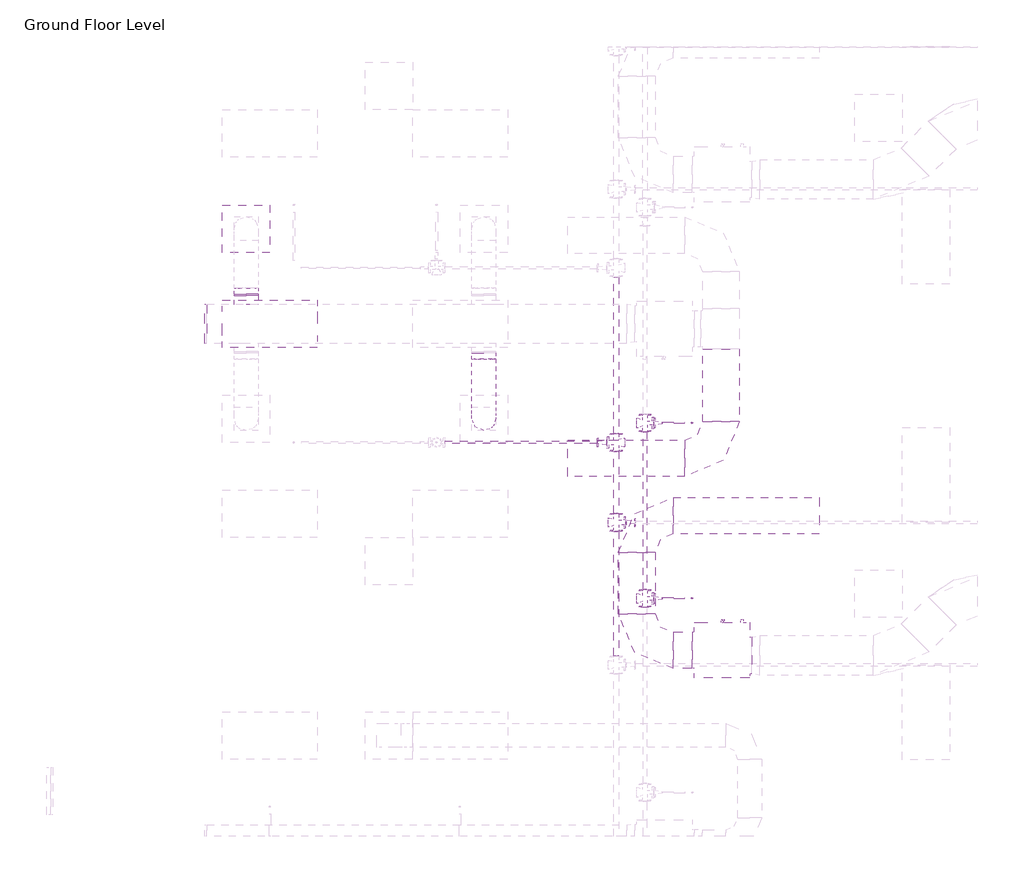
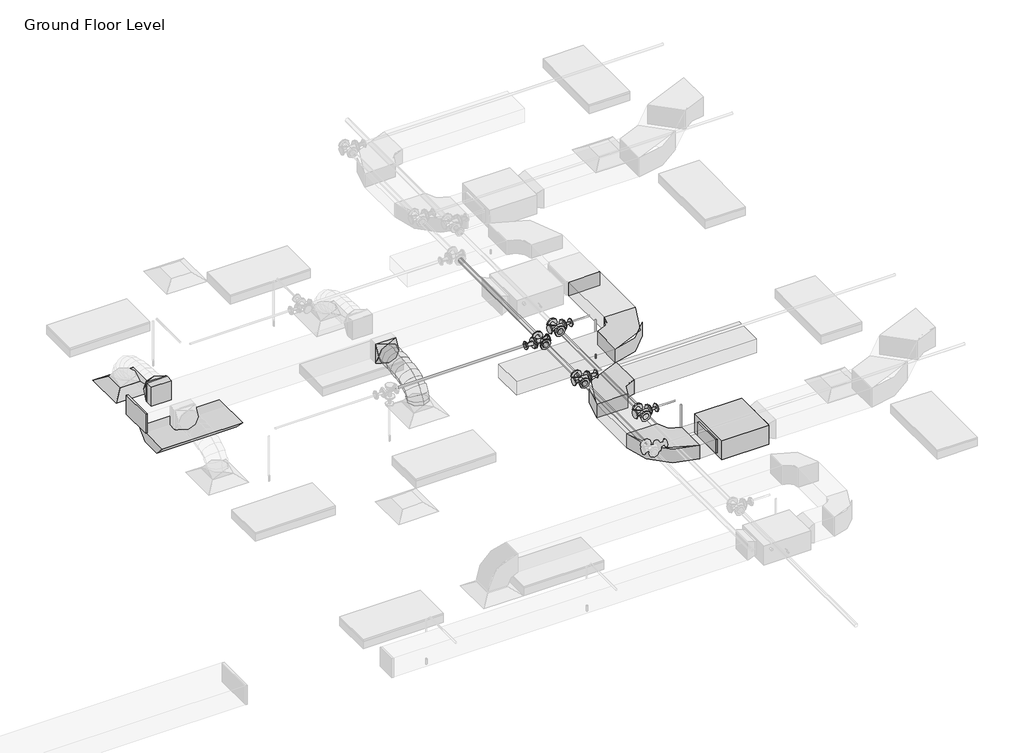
# One storey, part 55 of 66: 9 pipe segments, 8 duct fittings, 8 pipe fittings, 7 duct segments, 2 fire suppression terminals, 1 air terminal, 1 light fixture, 1 proxy.
"""IFC4 building model written with IfcOpenShell, lengths in millimetres."""

from ifc_helpers import new_model, si_unit, point, frame, frame_2d, origin, place, context, project, spatial, polyline, circle_curve, ellipse_curve, trimmed, segment, composite_curve, outline, extrude, transform, mapped, element, save
from ifc_brep_helpers import plane_surface, cylinder_surface, advanced_brep
from components import m_return_diffuser_600_x_600_face_300_x_300_connection_ff221211, fcu_daikin_iu_bad131e0, m_rectangular_elbow_radius_1_w_54c96895, m_rectangular_elbow_radius_1_w_0fa52825, m_rectangular_endcap_standard_72d4d00d, m_rectangular_takeoff_standard_2be5eba1, m_rectangular_transition_angle_45_degree_27e6000f, m_rectangular_to_round_transition_angle_45_degree_641efff0, m_sprinkler_pendent_15_mm_pendent_06fcbd8e, m_emergency_recessed_lighting_fixture_600x1200_277_5b10b25d, m_reducer_flanged_cs_class_150_standard_83138b42, m_reducer_flanged_cs_class_150_standard_a7631c35, m_reducer_flanged_cs_class_150_standard_5e9b2cee, m_tee_round_base_flanged_cs_class_150_standard_dd767e04, m_tee_round_base_flanged_cs_class_150_standard_ab36f383

model = new_model("IFC4")

# Units and contexts
model_context = context("Model", 3, world=origin())
ifc_project = project(units=[si_unit("LENGTHUNIT", "METRE", prefix="MILLI")], contexts=[model_context])

# Site, building, storey
site = spatial("IfcSite", under=ifc_project)
building = spatial("IfcBuilding", under=site)
storey = spatial("IfcBuildingStorey", under=building, Name="Ground Floor Level", Elevation=900.0)

# Air terminal
placement = place(None, origin())
m_return_diffuser_600_x_600_face_300_x_300_connection_shape = m_return_diffuser_600_x_600_face_300_x_300_connection_ff221211(model_context)
element("IfcAirTerminal", 1, ObjectType="M_Supply Diffuser : 600 x 600 Face 300 x 300 Connection", at=placement, inside=storey, context=model_context, shape_type="MappedRepresentation", body=[
    mapped(m_return_diffuser_600_x_600_face_300_x_300_connection_shape, transform((962.7672395, 5335.2153534, 3650.0), x_axis=(1.0, 0.0, 0.0), y_axis=(0.0, 1.0, 0.0), z_axis=(0.0, 0.0, 1.0))),
])

# Proxy
fcu_daikin_iu_shape = fcu_daikin_iu_bad131e0(model_context)
element("IfcBuildingElementProxy", 2, Name="FCU-DAIKIN IU : 4.5kW, 230V/50Hz/1Ph", ObjectType="FCU-DAIKIN IU : 4.5kW, 230V/50Hz/1Ph", at=placement, inside=storey, context=model_context, shape_type="MappedRepresentation", body=[
    mapped(fcu_daikin_iu_shape, transform((6968.8139492, 9.6779527, 3934.0932729), x_axis=(0.0, 1.0, 0.0), y_axis=(-1.0, 0.0, 0.0), z_axis=(0.0, 0.0, 1.0))),
])

# Duct fittings
m_rectangular_elbow_radius_1_w_shape = m_rectangular_elbow_radius_1_w_54c96895(model_context)
element("IfcDuctFitting", 3, ObjectType="M_Rectangular Elbow - Radius : 1 W", at=placement, inside=storey, context=model_context, shape_type="MappedRepresentation", body=[
    mapped(m_rectangular_elbow_radius_1_w_shape, transform((5893.4139492, 9.6779527, 4075.2932729), x_axis=(0.0, -1.0, 0.0), y_axis=(1.0, 0.0, 0.0), z_axis=(0.0, 0.0, 1.0))),
])
element("IfcDuctFitting", 4, ObjectType="M_Rectangular Elbow - Radius : 1 W", at=placement, inside=storey, context=model_context, shape_type="MappedRepresentation", body=[
    mapped(m_rectangular_elbow_radius_1_w_shape, transform((5893.4139492, 1709.6783949, 4075.2932729), x_axis=(-1.0, 0.0, 0.0), y_axis=(0.0, -1.0, 0.0), z_axis=(0.0, 0.0, 1.0))),
])
m_rectangular_elbow_radius_1_w_2_shape = m_rectangular_elbow_radius_1_w_0fa52825(model_context)
element("IfcDuctFitting", 5, ObjectType="M_Rectangular Elbow - Radius : 1 W", at=placement, inside=storey, context=model_context, shape_type="MappedRepresentation", body=[
    mapped(m_rectangular_elbow_radius_1_w_2_shape, transform((6958.8139492, 2435.5824167, 4075.2875), x_axis=(1.0, 0.0, 0.0), y_axis=(0.0, 1.0, 0.0), z_axis=(0.0, 0.0, 1.0))),
])
m_rectangular_endcap_standard_shape = m_rectangular_endcap_standard_72d4d00d(model_context)
element("IfcDuctFitting", 6, ObjectType="M_Rectangular Endcap : Standard", at=placement, inside=storey, context=model_context, shape_type="MappedRepresentation", body=[
    mapped(m_rectangular_endcap_standard_shape, transform((468.0139492, 4135.0199167, 4099.9875), x_axis=(-0.9999999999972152, 0.0, -2.3600398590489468e-06), y_axis=(0.0, -1.0000000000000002, 0.0), z_axis=(-2.3600398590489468e-06, 0.0, 0.9999999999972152))),
])
m_rectangular_takeoff_standard_shape = m_rectangular_takeoff_standard_2be5eba1(model_context)
element("IfcDuctFitting", 7, ObjectType="M_Rectangular Takeoff : Standard", at=placement, inside=storey, context=model_context, shape_type="MappedRepresentation", body=[
    mapped(m_rectangular_takeoff_standard_shape, transform((962.7672395, 4385.0199167, 4099.9886676), x_axis=(0.0, 1.0, 0.0), y_axis=(1.0, 0.0, 0.0), z_axis=(0.0, 0.0, -1.0))),
])
m_rectangular_transition_angle_45_degree_shape = m_rectangular_transition_angle_45_degree_27e6000f(model_context)
element("IfcDuctFitting", 8, ObjectType="M_Rectangular Transition - Angle : 45 Degree", at=placement, inside=storey, context=model_context, shape_type="MappedRepresentation", body=[
    mapped(m_rectangular_transition_angle_45_degree_shape, transform((6958.8139492, 3815.5824167, 4075.2875), x_axis=(0.0, -1.0, 0.0), y_axis=(1.0, 0.0, 0.0), z_axis=(0.0, 0.0, 1.0))),
])
m_rectangular_to_round_transition_angle_45_degree_shape = m_rectangular_to_round_transition_angle_45_degree_641efff0(model_context)
element("IfcDuctFitting", 9, ObjectType="M_Rectangular to Round Transition - Angle : 45 Degree", at=placement, inside=storey, context=model_context, shape_type="MappedRepresentation", body=[
    mapped(m_rectangular_to_round_transition_angle_45_degree_shape, transform((962.7672395, 4507.8680897, 4099.9886676), x_axis=(0.0, 1.0, 0.0), y_axis=(-1.0, 0.0, 0.0), z_axis=(0.0, 0.0, 1.0))),
])
element("IfcDuctFitting", 10, ObjectType="M_Rectangular to Round Transition - Angle : 45 Degree", at=placement, inside=storey, context=model_context, shape_type="MappedRepresentation", body=[
    mapped(m_rectangular_to_round_transition_angle_45_degree_shape, transform((3962.7672395, 3762.5555369, 4099.9957478), x_axis=(0.0, -1.0, 0.0), y_axis=(1.0, 0.0, 0.0), z_axis=(0.0, 0.0, 1.0))),
])

# Duct segments
element("IfcDuctSegment", 11, ObjectType="Flex - Round", at=placement, inside=storey, context=model_context, shape_type="AdvancedBrep", body=[
    advanced_brep(
    [(4112.7672395, 2935.2153534, 3826.6), (3962.7672395, 2785.2153534, 3826.6), (3812.7672395, 2935.2153534, 3826.6), (3962.7672395, 3085.2153534, 3826.6), (4112.7672395, 2935.2153534, 3857.9378899), (3962.7672395, 2785.2153534, 3883.5813304), (3812.7672395, 2935.2153534, 3857.9378899), (3962.7672395, 3085.2153534, 3832.2944495), (4112.7672395, 2952.2314038, 3906.2506504), (3962.7672395, 2818.4936927, 3978.0667363), (3812.7672395, 2952.2314038, 3906.2506504), (3962.7672395, 3085.969115, 3834.4345644), (4112.7672395, 2999.4156052, 3968.7111185), (3962.7672395, 2895.2104338, 4079.6211427), (3812.7672395, 2999.4156052, 3968.7111185), (3962.7672395, 3103.6207766, 3857.8010943), (4112.7672395, 3070.9720324, 4016.0693384), (3962.7672395, 3002.0391237, 4150.3236188), (3812.7672395, 3070.9720324, 4016.0693384), (3962.7672395, 3139.9049411, 3881.8150579), (4112.7672395, 3161.1047605, 4050.413244), (3962.7672395, 3117.545251, 4194.3357287), (3812.7672395, 3161.1047605, 4050.413244), (3962.7672395, 3204.66427, 3906.4907592), (4112.7672395, 3264.0178643, 4073.8307693), (3962.7672395, 3237.4581287, 4221.6214946), (3812.7672395, 3264.0178643, 4073.8307693), (3962.7672395, 3290.5775999, 3926.0400441), (4112.7672395, 3373.9154189, 4088.4098484), (3962.7672395, 3358.7655495, 4237.7142137), (3812.7672395, 3373.9154189, 4088.4098484), (3962.7672395, 3389.0652883, 3939.1054831), (4112.7672395, 3485.0014992, 4096.2384151), (3962.7672395, 3477.4969747, 4246.0815706), (3812.7672395, 3485.0014992, 4096.2384151), (3962.7672395, 3492.5060238, 3946.3952596), (4112.7672395, 3591.4801802, 4099.4044036), (3962.7672395, 3588.7891594, 4249.3906816), (3812.7672395, 3591.4801802, 4099.4044036), (3962.7672395, 3594.1712011, 3949.4181256), (4112.7672395, 3687.5555369, 4099.9957478), (3962.7672395, 3688.47877, 3949.998589), (3812.7672395, 3687.5555369, 4099.9957478), (3962.7672395, 3686.6323039, 4249.9929065)],
    [
        (0, 1, circle_curve(frame((3962.7672395, 2935.2153534, 3826.6), z_axis=(0.0, 0.0, -1.0), x_axis=(1.0, 0.0, 0.0)), 150.0)),
        (1, 2, circle_curve(frame((3962.7672395, 2935.2153534, 3826.6), z_axis=(0.0, 0.0, -1.0), x_axis=(1.0, 0.0, 0.0)), 150.0)),
        (2, 3, circle_curve(frame((3962.7672395, 2935.2153534, 3826.6), z_axis=(0.0, 0.0, -1.0), x_axis=(1.0, 0.0, 0.0)), 150.0)),
        (3, 0, circle_curve(frame((3962.7672395, 2935.2153534, 3826.6), z_axis=(0.0, 0.0, -1.0), x_axis=(1.0, 0.0, 0.0)), 150.0)),
        (0, 4),
        (4, 5, ellipse_curve(frame((3962.7672395, 2935.2153534, 3857.9378899), z_axis=(0.0, -0.1685115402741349, -0.9856996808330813), x_axis=(0.0, 0.9856996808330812, -0.1685115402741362)), 152.1761678, 150.0)),
        (5, 1),
        (5, 6, ellipse_curve(frame((3962.7672395, 2935.2153534, 3857.9378899), z_axis=(0.0, -0.1685115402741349, -0.9856996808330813), x_axis=(0.0, 0.9856996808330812, -0.1685115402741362)), 152.1761678, 150.0)),
        (6, 2),
        (6, 7, ellipse_curve(frame((3962.7672395, 2935.2153534, 3857.9378899), z_axis=(0.0, -0.1685115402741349, -0.9856996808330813), x_axis=(0.0, 0.9856996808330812, -0.1685115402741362)), 152.1761678, 150.0)),
        (7, 3),
        (7, 4, ellipse_curve(frame((3962.7672395, 2935.2153534, 3857.9378899), z_axis=(0.0, -0.1685115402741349, -0.9856996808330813), x_axis=(0.0, 0.9856996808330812, -0.1685115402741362)), 152.1761678, 150.0)),
        (4, 8),
        (8, 9, ellipse_curve(frame((3962.7672395, 2952.2314038, 3906.2506504), z_axis=(0.0, -0.47309586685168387, -0.8810109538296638), x_axis=(0.0, 0.8810109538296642, -0.4730958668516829)), 151.8002819, 150.0)),
        (9, 5),
        (9, 10, ellipse_curve(frame((3962.7672395, 2952.2314038, 3906.2506504), z_axis=(0.0, -0.47309586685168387, -0.8810109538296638), x_axis=(0.0, 0.8810109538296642, -0.4730958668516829)), 151.8002819, 150.0)),
        (10, 6),
        (10, 11, ellipse_curve(frame((3962.7672395, 2952.2314038, 3906.2506504), z_axis=(0.0, -0.47309586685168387, -0.8810109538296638), x_axis=(0.0, 0.8810109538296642, -0.4730958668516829)), 151.8002819, 150.0)),
        (11, 7),
        (11, 8, ellipse_curve(frame((3962.7672395, 2952.2314038, 3906.2506504), z_axis=(0.0, -0.47309586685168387, -0.8810109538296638), x_axis=(0.0, 0.8810109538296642, -0.4730958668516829)), 151.8002819, 150.0)),
        (8, 12),
        (12, 13, ellipse_curve(frame((3962.7672395, 2999.4156052, 3968.7111185), z_axis=(0.0, -0.7287924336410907, -0.68473468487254), x_axis=(0.0, 0.6847346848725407, -0.7287924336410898)), 152.1832817, 150.0)),
        (13, 9),
        (13, 14, ellipse_curve(frame((3962.7672395, 2999.4156052, 3968.7111185), z_axis=(0.0, -0.7287924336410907, -0.68473468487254), x_axis=(0.0, 0.6847346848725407, -0.7287924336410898)), 152.1832817, 150.0)),
        (14, 10),
        (14, 15, ellipse_curve(frame((3962.7672395, 2999.4156052, 3968.7111185), z_axis=(0.0, -0.7287924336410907, -0.68473468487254), x_axis=(0.0, 0.6847346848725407, -0.7287924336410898)), 152.1832817, 150.0)),
        (15, 11),
        (15, 12, ellipse_curve(frame((3962.7672395, 2999.4156052, 3968.7111185), z_axis=(0.0, -0.7287924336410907, -0.68473468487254), x_axis=(0.0, 0.6847346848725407, -0.7287924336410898)), 152.1832817, 150.0)),
        (12, 16),
        (16, 17, ellipse_curve(frame((3962.7672395, 3070.9720324, 4016.0693384), z_axis=(0.0, -0.8895898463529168, -0.4567602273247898), x_axis=(0.0, 0.45676022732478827, -0.8895898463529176)), 150.9170558, 150.0)),
        (17, 13),
        (17, 18, ellipse_curve(frame((3962.7672395, 3070.9720324, 4016.0693384), z_axis=(0.0, -0.8895898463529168, -0.4567602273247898), x_axis=(0.0, 0.45676022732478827, -0.8895898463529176)), 150.9170558, 150.0)),
        (18, 14),
        (18, 19, ellipse_curve(frame((3962.7672395, 3070.9720324, 4016.0693384), z_axis=(0.0, -0.8895898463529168, -0.4567602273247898), x_axis=(0.0, 0.45676022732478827, -0.8895898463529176)), 150.9170558, 150.0)),
        (19, 15),
        (19, 16, ellipse_curve(frame((3962.7672395, 3070.9720324, 4016.0693384), z_axis=(0.0, -0.8895898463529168, -0.4567602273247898), x_axis=(0.0, 0.45676022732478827, -0.8895898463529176)), 150.9170558, 150.0)),
        (16, 20),
        (20, 21, ellipse_curve(frame((3962.7672395, 3161.1047605, 4050.413244), z_axis=(0.0, -0.9571228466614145, -0.28968233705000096), x_axis=(0.0, 0.2896823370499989, -0.9571228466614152)), 150.3699188, 150.0)),
        (21, 17),
        (21, 22, ellipse_curve(frame((3962.7672395, 3161.1047605, 4050.413244), z_axis=(0.0, -0.9571228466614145, -0.28968233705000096), x_axis=(0.0, 0.2896823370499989, -0.9571228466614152)), 150.3699188, 150.0)),
        (22, 18),
        (22, 23, ellipse_curve(frame((3962.7672395, 3161.1047605, 4050.413244), z_axis=(0.0, -0.9571228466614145, -0.28968233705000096), x_axis=(0.0, 0.2896823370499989, -0.9571228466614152)), 150.3699188, 150.0)),
        (23, 19),
        (23, 20, ellipse_curve(frame((3962.7672395, 3161.1047605, 4050.413244), z_axis=(0.0, -0.9571228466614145, -0.28968233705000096), x_axis=(0.0, 0.2896823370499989, -0.9571228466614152)), 150.3699188, 150.0)),
        (20, 24),
        (24, 25, ellipse_curve(frame((3962.7672395, 3264.0178643, 4073.8307693), z_axis=(0.0, -0.9842327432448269, -0.17687822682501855), x_axis=(0.0, 0.17687822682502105, -0.9842327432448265)), 150.1583099, 150.0)),
        (25, 21),
        (25, 26, ellipse_curve(frame((3962.7672395, 3264.0178643, 4073.8307693), z_axis=(0.0, -0.9842327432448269, -0.17687822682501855), x_axis=(0.0, 0.17687822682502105, -0.9842327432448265)), 150.1583099, 150.0)),
        (26, 22),
        (26, 27, ellipse_curve(frame((3962.7672395, 3264.0178643, 4073.8307693), z_axis=(0.0, -0.9842327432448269, -0.17687822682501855), x_axis=(0.0, 0.17687822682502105, -0.9842327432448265)), 150.1583099, 150.0)),
        (27, 23),
        (27, 24, ellipse_curve(frame((3962.7672395, 3264.0178643, 4073.8307693), z_axis=(0.0, -0.9842327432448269, -0.17687822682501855), x_axis=(0.0, 0.17687822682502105, -0.9842327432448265)), 150.1583099, 150.0)),
        (24, 28),
        (28, 29, ellipse_curve(frame((3962.7672395, 3373.9154189, 4088.4098484), z_axis=(0.0, -0.9948913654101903, -0.10095133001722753), x_axis=(0.0, 0.10095133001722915, -0.9948913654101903)), 150.0710233, 150.0)),
        (29, 25),
        (29, 30, ellipse_curve(frame((3962.7672395, 3373.9154189, 4088.4098484), z_axis=(0.0, -0.9948913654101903, -0.10095133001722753), x_axis=(0.0, 0.10095133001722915, -0.9948913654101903)), 150.0710233, 150.0)),
        (30, 26),
        (30, 31, ellipse_curve(frame((3962.7672395, 3373.9154189, 4088.4098484), z_axis=(0.0, -0.9948913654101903, -0.10095133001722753), x_axis=(0.0, 0.10095133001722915, -0.9948913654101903)), 150.0710233, 150.0)),
        (31, 27),
        (31, 28, ellipse_curve(frame((3962.7672395, 3373.9154189, 4088.4098484), z_axis=(0.0, -0.9948913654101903, -0.10095133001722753), x_axis=(0.0, 0.10095133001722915, -0.9948913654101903)), 150.0710233, 150.0)),
        (28, 32),
        (32, 33, ellipse_curve(frame((3962.7672395, 3485.0014992, 4096.2384151), z_axis=(0.0, -0.9987482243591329, -0.05001983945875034), x_axis=(0.0, 0.05001983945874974, -0.9987482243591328)), 150.0309606, 150.0)),
        (33, 29),
        (33, 34, ellipse_curve(frame((3962.7672395, 3485.0014992, 4096.2384151), z_axis=(0.0, -0.9987482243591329, -0.05001983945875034), x_axis=(0.0, 0.05001983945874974, -0.9987482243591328)), 150.0309606, 150.0)),
        (34, 30),
        (34, 35, ellipse_curve(frame((3962.7672395, 3485.0014992, 4096.2384151), z_axis=(0.0, -0.9987482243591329, -0.05001983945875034), x_axis=(0.0, 0.05001983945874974, -0.9987482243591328)), 150.0309606, 150.0)),
        (35, 31),
        (35, 32, ellipse_curve(frame((3962.7672395, 3485.0014992, 4096.2384151), z_axis=(0.0, -0.9987482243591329, -0.05001983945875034), x_axis=(0.0, 0.05001983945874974, -0.9987482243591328)), 150.0309606, 150.0)),
        (32, 36),
        (36, 37, ellipse_curve(frame((3962.7672395, 3591.4801802, 4099.4044036), z_axis=(0.0, -0.9998390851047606, -0.017938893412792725), x_axis=(0.0, 0.017938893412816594, -0.99983908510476)), 150.0104169, 150.0)),
        (37, 33),
        (37, 38, ellipse_curve(frame((3962.7672395, 3591.4801802, 4099.4044036), z_axis=(0.0, -0.9998390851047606, -0.017938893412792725), x_axis=(0.0, 0.017938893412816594, -0.99983908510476)), 150.0104169, 150.0)),
        (38, 34),
        (38, 39, ellipse_curve(frame((3962.7672395, 3591.4801802, 4099.4044036), z_axis=(0.0, -0.9998390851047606, -0.017938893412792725), x_axis=(0.0, 0.017938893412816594, -0.99983908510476)), 150.0104169, 150.0)),
        (39, 35),
        (39, 36, ellipse_curve(frame((3962.7672395, 3591.4801802, 4099.4044036), z_axis=(0.0, -0.9998390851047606, -0.017938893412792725), x_axis=(0.0, 0.017938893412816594, -0.99983908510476)), 150.0104169, 150.0)),
        (40, 41, circle_curve(frame((3962.7672395, 3687.5555369, 4099.9957478), z_axis=(0.0, 0.9999810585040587, 0.006154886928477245), x_axis=(1.0, 0.0, 0.0)), 150.0)),
        (41, 42, circle_curve(frame((3962.7672395, 3687.5555369, 4099.9957478), z_axis=(0.0, 0.9999810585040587, 0.006154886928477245), x_axis=(1.0, 0.0, 0.0)), 150.0)),
        (42, 43, circle_curve(frame((3962.7672395, 3687.5555369, 4099.9957478), z_axis=(0.0, 0.9999810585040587, 0.006154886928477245), x_axis=(1.0, 0.0, 0.0)), 150.0)),
        (43, 40, circle_curve(frame((3962.7672395, 3687.5555369, 4099.9957478), z_axis=(0.0, 0.9999810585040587, 0.006154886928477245), x_axis=(1.0, 0.0, 0.0)), 150.0)),
        (36, 40),
        (43, 37),
        (42, 38),
        (41, 39),
    ],
    [
        plane_surface(frame((3962.7672395, 2785.2153534, 3826.6), z_axis=(0.0, 0.0, -1.0), x_axis=(1.0, 0.0, 0.0))),
        cylinder_surface(frame((3962.7672395, 2935.2153534, 3826.6), z_axis=(0.0, 0.0, -1.0), x_axis=(1.0, 0.0, 0.0)), 150.0),
        cylinder_surface(frame((3962.7672395, 2935.2153534, 3857.9378899), z_axis=(0.0, -0.33220354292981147, -0.9432077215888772), x_axis=(1.0, 0.0, 0.0)), 150.0),
        cylinder_surface(frame((3962.7672395, 2952.2314038, 3906.2506504), z_axis=(0.0, -0.6027667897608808, -0.7979174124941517), x_axis=(1.0, 0.0, 0.0)), 150.0),
        cylinder_surface(frame((3962.7672395, 2999.4156052, 3968.7111185), z_axis=(0.0, -0.833906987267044, -0.5519050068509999), x_axis=(1.0, 0.0, 0.0)), 150.0),
        cylinder_surface(frame((3962.7672395, 3070.9720324, 4016.0693384), z_axis=(0.0, -0.9344614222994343, -0.35606439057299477), x_axis=(1.0, 0.0, 0.0)), 150.0),
        cylinder_surface(frame((3962.7672395, 3161.1047605, 4050.413244), z_axis=(0.0, -0.9750751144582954, -0.22187501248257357), x_axis=(1.0, 0.0, 0.0)), 150.0),
        cylinder_surface(frame((3962.7672395, 3264.0178643, 4073.8307693), z_axis=(0.0, -0.9913150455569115, -0.1315084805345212), x_axis=(1.0, 0.0, 0.0)), 150.0),
        cylinder_surface(frame((3962.7672395, 3373.9154189, 4088.4098484), z_axis=(0.0, -0.997525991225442, -0.07029862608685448), x_axis=(1.0, 0.0, 0.0)), 150.0),
        cylinder_surface(frame((3962.7672395, 3485.0014992, 4096.2384151), z_axis=(0.0, -0.9995582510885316, -0.029720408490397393), x_axis=(1.0, 0.0, 0.0)), 150.0),
        plane_surface(frame((3962.7672395, 3686.6323039, 4249.9929065), z_axis=(0.0, 0.9999810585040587, 0.006154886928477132), x_axis=(1.0, 0.0, 0.0))),
        cylinder_surface(frame((3962.7672395, 3591.4801802, 4099.4044036), z_axis=(0.0, -0.9999810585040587, -0.006154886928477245), x_axis=(1.0, 0.0, 0.0)), 150.0),
    ],
    [
        (0, [[1, 2, 3, 4]]),
        (1, [[-1, 5, 6, 7]]),
        (1, [[-2, -7, 8, 9]]),
        (1, [[-3, -9, 10, 11]]),
        (1, [[-4, -11, 12, -5]]),
        (2, [[-6, 13, 14, 15]]),
        (2, [[-8, -15, 16, 17]]),
        (2, [[-10, -17, 18, 19]]),
        (2, [[-12, -19, 20, -13]]),
        (3, [[-14, 21, 22, 23]]),
        (3, [[-16, -23, 24, 25]]),
        (3, [[-18, -25, 26, 27]]),
        (3, [[-20, -27, 28, -21]]),
        (4, [[-22, 29, 30, 31]]),
        (4, [[-24, -31, 32, 33]]),
        (4, [[-26, -33, 34, 35]]),
        (4, [[-28, -35, 36, -29]]),
        (5, [[-30, 37, 38, 39]]),
        (5, [[-32, -39, 40, 41]]),
        (5, [[-34, -41, 42, 43]]),
        (5, [[-36, -43, 44, -37]]),
        (6, [[-38, 45, 46, 47]]),
        (6, [[-40, -47, 48, 49]]),
        (6, [[-42, -49, 50, 51]]),
        (6, [[-44, -51, 52, -45]]),
        (7, [[-46, 53, 54, 55]]),
        (7, [[-48, -55, 56, 57]]),
        (7, [[-50, -57, 58, 59]]),
        (7, [[-52, -59, 60, -53]]),
        (8, [[-54, 61, 62, 63]]),
        (8, [[-56, -63, 64, 65]]),
        (8, [[-58, -65, 66, 67]]),
        (8, [[-60, -67, 68, -61]]),
        (9, [[-62, 69, 70, 71]]),
        (9, [[-64, -71, 72, 73]]),
        (9, [[-66, -73, 74, 75]]),
        (9, [[-68, -75, 76, -69]]),
        (10, [[77, 78, 79, 80]]),
        (11, [[-70, 81, -80, 82]]),
        (11, [[-72, -82, -79, 83]]),
        (11, [[-74, -83, -78, 84]]),
        (11, [[-76, -84, -77, -81]]),
    ],
),
])
element("IfcDuctSegment", 12, ObjectType="Radius Elbows / Taps", at=placement, inside=storey, context=model_context, shape_type="SweptSolid", body=[
    extrude(outline(polyline([(6593.4139492, 240.6154527), (6593.4139492, -221.2595473), (6355.2889492, -221.2595473), (6355.2889492, 240.6154527), (6593.4139492, 240.6154527)])), frame((0.0, 0.0, 3968.1432729), z_axis=(0.0, 0.0, 1.0), x_axis=(1.0, 0.0, 0.0)), (0.0, 0.0, 1.0), 214.3),
])
element("IfcDuctSegment", 13, ObjectType="Radius Elbows / Taps", at=placement, inside=storey, context=model_context, shape_type="SweptSolid", body=[
    extrude(outline(polyline([(6124.3514492, 471.5529527), (5662.4764492, 471.5529527), (5662.4764492, 1247.8033949), (6124.3514492, 1247.8033949), (6124.3514492, 471.5529527)])), frame((0.0, 0.0, 3968.1432729), z_axis=(0.0, 0.0, 1.0), x_axis=(1.0, 0.0, 0.0)), (0.0, 0.0, 1.0), 214.3),
])
element("IfcDuctSegment", 14, ObjectType="Radius Elbows / Taps", at=placement, inside=storey, context=model_context, shape_type="SweptSolid", body=[
    extrude(outline(polyline([(6355.2889492, 1478.7408949), (6355.2889492, 1940.6158949), (8193.4139492, 1940.6158949), (8193.4139492, 1478.7408949), (6355.2889492, 1478.7408949)])), frame((0.0, 0.0, 3968.1432729), z_axis=(0.0, 0.0, 1.0), x_axis=(1.0, 0.0, 0.0)), (0.0, 0.0, 1.0), 214.3),
])
element("IfcDuctSegment", 15, ObjectType="Radius Elbows / Taps", at=placement, inside=storey, context=model_context, shape_type="SweptSolid", body=[
    extrude(outline(polyline([(6727.8139492, 3815.2202847), (7189.8139492, 3815.2202847), (7189.8139492, 2897.5824167), (6727.8139492, 2897.5824167), (6727.8139492, 3815.2202847)])), frame((0.0, 0.0, 3968.2875), z_axis=(0.0, 0.0, 1.0), x_axis=(1.0, 0.0, 0.0)), (0.0, 0.0, 1.0), 214.0),
])
element("IfcDuctSegment", 16, ObjectType="Radius Elbows / Taps", at=placement, inside=storey, context=model_context, shape_type="SweptSolid", body=[
    extrude(outline(polyline([(6496.8139492, 2666.5824167), (6496.8139492, 2204.5824167), (5018.8139492, 2204.5824167), (5018.8139492, 2666.5824167), (6496.8139492, 2666.5824167)])), frame((0.0, 0.0, 3968.2875), z_axis=(0.0, 0.0, 1.0), x_axis=(1.0, 0.0, 0.0)), (0.0, 0.0, 1.0), 214.0),
])
element("IfcDuctSegment", 17, ObjectType="Radius Elbows / Taps", at=placement, inside=storey, context=model_context, shape_type="SweptSolid", body=[
    extrude(outline(polyline([(1112.7672395, 4486.6199167), (812.7672395, 4486.6199167), (812.7672395, 4507.8680897), (1112.7672395, 4507.8680897), (1112.7672395, 4486.6199167)])), frame((0.0, 0.0, 3949.9886676), z_axis=(0.0, 0.0, 1.0), x_axis=(1.0, 0.0, 0.0)), (0.0, 0.0, 1.0), 300.0),
])

# Fire suppression terminals
m_sprinkler_pendent_15_mm_pendent_shape = m_sprinkler_pendent_15_mm_pendent_06fcbd8e(model_context)
element("IfcFireSuppressionTerminal", 18, ObjectType="M_Sprinkler - Pendent : 15 mm Pendent", at=placement, inside=storey, context=model_context, shape_type="MappedRepresentation", body=[
    mapped(m_sprinkler_pendent_15_mm_pendent_shape, transform((6592.5481019, 2881.5134565, 3650.0), x_axis=(1.0, 0.0, 0.0), y_axis=(0.0, 1.0, 0.0), z_axis=(0.0, 0.0, 1.0))),
])
element("IfcFireSuppressionTerminal", 19, ObjectType="M_Sprinkler - Pendent : 15 mm Pendent", at=placement, inside=storey, context=model_context, shape_type="MappedRepresentation", body=[
    mapped(m_sprinkler_pendent_15_mm_pendent_shape, transform((6592.5481019, 666.6492065, 3650.0), x_axis=(1.0, 0.0, 0.0), y_axis=(0.0, 1.0, 0.0), z_axis=(0.0, 0.0, 1.0))),
])

# Light fixture
m_emergency_recessed_lighting_fixture_600x1200_277_shape = m_emergency_recessed_lighting_fixture_600x1200_277_5b10b25d(model_context)
element("IfcLightFixture", 20, ObjectType="M_Emergency Recessed Lighting Fixture : 600x1200 - 277", at=placement, inside=storey, context=model_context, shape_type="MappedRepresentation", body=[
    mapped(m_emergency_recessed_lighting_fixture_600x1200_277_shape, transform((662.7672395, 4435.2153534, 3650.0), x_axis=(1.0, 0.0, 0.0), y_axis=(0.0, 1.0, 0.0), z_axis=(0.0, 0.0, 1.0))),
])

# Pipe fittings
m_reducer_flanged_cs_class_150_standard_shape = m_reducer_flanged_cs_class_150_standard_83138b42(model_context)
element("IfcPipeFitting", 21, ObjectType="M_Reducer - Flanged - CS - Class 150 : Standard", at=placement, inside=storey, context=model_context, shape_type="MappedRepresentation", body=[
    mapped(m_reducer_flanged_cs_class_150_standard_shape, transform((6109.3164057, 2881.5134565, 4291.2754753), x_axis=(1.0, 0.0, 0.0), y_axis=(0.0, 0.0, -1.0), z_axis=(0.0, 1.0, 0.0))),
])
element("IfcPipeFitting", 22, ObjectType="M_Reducer - Flanged - CS - Class 150 : Standard", at=placement, inside=storey, context=model_context, shape_type="MappedRepresentation", body=[
    mapped(m_reducer_flanged_cs_class_150_standard_shape, transform((6109.3164057, 666.6492065, 4291.2754753), x_axis=(1.0, 0.0, 0.0), y_axis=(0.0, 0.0, -1.0), z_axis=(0.0, 1.0, 0.0))),
])
m_reducer_flanged_cs_class_150_standard_2_shape = m_reducer_flanged_cs_class_150_standard_a7631c35(model_context)
element("IfcPipeFitting", 23, ObjectType="M_Reducer - Flanged - CS - Class 150 : Standard", at=placement, inside=storey, context=model_context, shape_type="MappedRepresentation", body=[
    mapped(m_reducer_flanged_cs_class_150_standard_2_shape, transform((5749.869498, 1625.2153534, 4360.0), x_axis=(1.0, 0.0, 0.0), y_axis=(0.0, 0.0, 1.0), z_axis=(0.0, -1.0, 0.0))),
])
m_reducer_flanged_cs_class_150_standard_3_shape = m_reducer_flanged_cs_class_150_standard_5e9b2cee(model_context)
element("IfcPipeFitting", 24, ObjectType="M_Reducer - Flanged - CS - Class 150 : Standard", at=placement, inside=storey, context=model_context, shape_type="MappedRepresentation", body=[
    mapped(m_reducer_flanged_cs_class_150_standard_3_shape, transform((5521.869498, 2635.2153534, 4360.0), x_axis=(-1.0, 0.0, 0.0), y_axis=(0.0, 0.0, -1.0), z_axis=(0.0, -1.0, 0.0))),
])
m_tee_round_base_flanged_cs_class_150_standard_shape = m_tee_round_base_flanged_cs_class_150_standard_dd767e04(model_context)
element("IfcPipeFitting", 25, ObjectType="M_Tee Round Base - Flanged - CS - Class 150 : Standard", at=placement, inside=storey, context=model_context, shape_type="MappedRepresentation", body=[
    mapped(m_tee_round_base_flanged_cs_class_150_standard_shape, transform((5635.869498, 1625.2153534, 4360.0), x_axis=(0.0, 1.0, 0.0), y_axis=(-1.0, 0.0, 0.0), z_axis=(0.0, 0.0, 1.0))),
])
element("IfcPipeFitting", 26, ObjectType="M_Tee Round Base - Flanged - CS - Class 150 : Standard", at=placement, inside=storey, context=model_context, shape_type="MappedRepresentation", body=[
    mapped(m_tee_round_base_flanged_cs_class_150_standard_shape, transform((5635.869498, 2635.2153534, 4360.0), x_axis=(0.0, 1.0, 0.0), y_axis=(1.0, 0.0, 0.0), z_axis=(0.0, 0.0, -1.0))),
])
m_tee_round_base_flanged_cs_class_150_standard_2_shape = m_tee_round_base_flanged_cs_class_150_standard_ab36f383(model_context)
element("IfcPipeFitting", 27, ObjectType="M_Tee Round Base - Flanged - CS - Class 150 : Standard", at=placement, inside=storey, context=model_context, shape_type="MappedRepresentation", body=[
    mapped(m_tee_round_base_flanged_cs_class_150_standard_2_shape, transform((5997.057812, 2881.5134565, 4291.0943441), x_axis=(0.0, 1.0, 0.0), y_axis=(-1.0, 0.0, 0.0), z_axis=(0.0, 0.0, 1.0))),
])
element("IfcPipeFitting", 28, ObjectType="M_Tee Round Base - Flanged - CS - Class 150 : Standard", at=placement, inside=storey, context=model_context, shape_type="MappedRepresentation", body=[
    mapped(m_tee_round_base_flanged_cs_class_150_standard_2_shape, transform((5997.057812, 666.6492065, 4291.0943441), x_axis=(0.0, 1.0, 0.0), y_axis=(-1.0, 0.0, 0.0), z_axis=(0.0, 0.0, 1.0))),
])

# Pipe segments
element("IfcPipeSegment", 29, ObjectType="Steel flanged", at=placement, inside=storey, context=model_context, shape_type="SweptSolid", body=[
    extrude(outline(composite_curve([segment(trimmed(circle_curve(frame_2d((6592.5481019, 2881.5134565)), 10.668), [point((6581.8801019, 2881.5134565))], [point((6592.5481019, 2892.1814565))], False, "CARTESIAN"), True, "CONTINUOUS"), segment(trimmed(circle_curve(frame_2d((6592.5481019, 2881.5134565)), 10.668), [point((6592.5481019, 2892.1814565))], [point((6603.2161019, 2881.5134565))], False, "CARTESIAN"), True, "CONTINUOUS"), segment(trimmed(circle_curve(frame_2d((6592.5481019, 2881.5134565)), 10.668), [point((6603.2161019, 2881.5134565))], [point((6592.5481019, 2870.8454565))], False, "CARTESIAN"), True, "CONTINUOUS"), segment(trimmed(circle_curve(frame_2d((6592.5481019, 2881.5134565)), 10.668), [point((6592.5481019, 2870.8454565))], [point((6581.8801019, 2881.5134565))], False, "CARTESIAN"), True, "CONTINUOUS")], self_intersect=False)), frame((0.0, 0.0, 3650.0), z_axis=(0.0, 0.0, 1.0), x_axis=(1.0, 0.0, 0.0)), (0.0, 0.0, 1.0), 548.2668816),
])
element("IfcPipeSegment", 30, ObjectType="Steel flanged", at=placement, inside=storey, context=model_context, shape_type="SweptSolid", body=[
    extrude(outline(composite_curve([segment(trimmed(circle_curve(frame_2d((2881.5134565, 4291.2754753)), 10.668), [point((2892.1814565, 4291.2754753))], [point((2881.5134565, 4280.6074753))], False, "CARTESIAN"), True, "CONTINUOUS"), segment(trimmed(circle_curve(frame_2d((2881.5134565, 4291.2754753)), 10.668), [point((2881.5134565, 4280.6074753))], [point((2870.8454565, 4291.2754753))], False, "CARTESIAN"), True, "CONTINUOUS"), segment(trimmed(circle_curve(frame_2d((2881.5134565, 4291.2754753)), 10.668), [point((2870.8454565, 4291.2754753))], [point((2881.5134565, 4301.9434753))], False, "CARTESIAN"), True, "CONTINUOUS"), segment(trimmed(circle_curve(frame_2d((2881.5134565, 4291.2754753)), 10.668), [point((2881.5134565, 4301.9434753))], [point((2892.1814565, 4291.2754753))], False, "CARTESIAN"), True, "CONTINUOUS")], self_intersect=False)), frame((6223.3164057, 0.0, 0.0), z_axis=(1.0, 0.0, 0.0), x_axis=(0.0, 1.0, 0.0)), (0.0, 0.0, 1.0), 276.2231025),
])
element("IfcPipeSegment", 31, ObjectType="Steel flanged", at=placement, inside=storey, context=model_context, shape_type="SweptSolid", body=[
    extrude(outline(composite_curve([segment(trimmed(circle_curve(frame_2d((6592.5481019, 666.6492065)), 10.668), [point((6581.8801019, 666.6492065))], [point((6592.5481019, 677.3172065))], False, "CARTESIAN"), True, "CONTINUOUS"), segment(trimmed(circle_curve(frame_2d((6592.5481019, 666.6492065)), 10.668), [point((6592.5481019, 677.3172065))], [point((6603.2161019, 666.6492065))], False, "CARTESIAN"), True, "CONTINUOUS"), segment(trimmed(circle_curve(frame_2d((6592.5481019, 666.6492065)), 10.668), [point((6603.2161019, 666.6492065))], [point((6592.5481019, 655.9812065))], False, "CARTESIAN"), True, "CONTINUOUS"), segment(trimmed(circle_curve(frame_2d((6592.5481019, 666.6492065)), 10.668), [point((6592.5481019, 655.9812065))], [point((6581.8801019, 666.6492065))], False, "CARTESIAN"), True, "CONTINUOUS")], self_intersect=False)), frame((0.0, 0.0, 3650.0), z_axis=(0.0, 0.0, 1.0), x_axis=(1.0, 0.0, 0.0)), (0.0, 0.0, 1.0), 548.2668816),
])
element("IfcPipeSegment", 32, ObjectType="Steel flanged", at=placement, inside=storey, context=model_context, shape_type="SweptSolid", body=[
    extrude(outline(composite_curve([segment(trimmed(circle_curve(frame_2d((666.6492065, 4291.2754753)), 10.668), [point((677.3172065, 4291.2754753))], [point((666.6492065, 4280.6074753))], False, "CARTESIAN"), True, "CONTINUOUS"), segment(trimmed(circle_curve(frame_2d((666.6492065, 4291.2754753)), 10.668), [point((666.6492065, 4280.6074753))], [point((655.9812065, 4291.2754753))], False, "CARTESIAN"), True, "CONTINUOUS"), segment(trimmed(circle_curve(frame_2d((666.6492065, 4291.2754753)), 10.668), [point((655.9812065, 4291.2754753))], [point((666.6492065, 4301.9434753))], False, "CARTESIAN"), True, "CONTINUOUS"), segment(trimmed(circle_curve(frame_2d((666.6492065, 4291.2754753)), 10.668), [point((666.6492065, 4301.9434753))], [point((677.3172065, 4291.2754753))], False, "CARTESIAN"), True, "CONTINUOUS")], self_intersect=False)), frame((6223.3164057, 0.0, 0.0), z_axis=(1.0, 0.0, 0.0), x_axis=(0.0, 1.0, 0.0)), (0.0, 0.0, 1.0), 276.2231025),
])
element("IfcPipeSegment", 33, ObjectType="Steel flanged", at=placement, inside=storey, context=model_context, shape_type="SweptSolid", body=[
    extrude(outline(composite_curve([segment(trimmed(circle_curve(frame_2d((4291.0943441, 5997.057812)), 24.13), [point((4291.0943441, 5972.927812))], [point((4266.9643441, 5997.057812))], False, "CARTESIAN"), True, "CONTINUOUS"), segment(trimmed(circle_curve(frame_2d((4291.0943441, 5997.057812)), 24.13), [point((4266.9643441, 5997.057812))], [point((4291.0943441, 6021.187812))], False, "CARTESIAN"), True, "CONTINUOUS"), segment(trimmed(circle_curve(frame_2d((4291.0943441, 5997.057812)), 24.13), [point((4291.0943441, 6021.187812))], [point((4315.2243441, 5997.057812))], False, "CARTESIAN"), True, "CONTINUOUS"), segment(trimmed(circle_curve(frame_2d((4291.0943441, 5997.057812)), 24.13), [point((4315.2243441, 5997.057812))], [point((4291.0943441, 5972.927812))], False, "CARTESIAN"), True, "CONTINUOUS")], self_intersect=False)), frame((0.0, 778.9078002, 0.0), z_axis=(0.0, 1.0, 0.0), x_axis=(0.0, 0.0, 1.0)), (0.0, 0.0, 1.0), 1990.3470625),
])
element("IfcPipeSegment", 34, ObjectType="Steel flanged", at=placement, inside=storey, context=model_context, shape_type="SweptSolid", body=[
    extrude(outline(composite_curve([segment(trimmed(circle_curve(frame_2d((4360.0, 5635.869498)), 30.1625), [point((4360.0, 5605.706998))], [point((4329.8375, 5635.869498))], False, "CARTESIAN"), True, "CONTINUOUS"), segment(trimmed(circle_curve(frame_2d((4360.0, 5635.869498)), 30.1625), [point((4329.8375, 5635.869498))], [point((4360.0, 5666.031998))], False, "CARTESIAN"), True, "CONTINUOUS"), segment(trimmed(circle_curve(frame_2d((4360.0, 5635.869498)), 30.1625), [point((4360.0, 5666.031998))], [point((4390.1625, 5635.869498))], False, "CARTESIAN"), True, "CONTINUOUS"), segment(trimmed(circle_curve(frame_2d((4360.0, 5635.869498)), 30.1625), [point((4390.1625, 5635.869498))], [point((4360.0, 5605.706998))], False, "CARTESIAN"), True, "CONTINUOUS")], self_intersect=False)), frame((0.0, -60.7846466, 0.0), z_axis=(0.0, 1.0, 0.0), x_axis=(0.0, 0.0, 1.0)), (0.0, 0.0, 1.0), 1572.0),
])
element("IfcPipeSegment", 35, ObjectType="Steel flanged", at=placement, inside=storey, context=model_context, shape_type="SweptSolid", body=[
    extrude(outline(composite_curve([segment(trimmed(circle_curve(frame_2d((4360.0, 5635.869498)), 30.1625), [point((4360.0, 5605.706998))], [point((4329.8375, 5635.869498))], False, "CARTESIAN"), True, "CONTINUOUS"), segment(trimmed(circle_curve(frame_2d((4360.0, 5635.869498)), 30.1625), [point((4329.8375, 5635.869498))], [point((4360.0, 5666.031998))], False, "CARTESIAN"), True, "CONTINUOUS"), segment(trimmed(circle_curve(frame_2d((4360.0, 5635.869498)), 30.1625), [point((4360.0, 5666.031998))], [point((4390.1625, 5635.869498))], False, "CARTESIAN"), True, "CONTINUOUS"), segment(trimmed(circle_curve(frame_2d((4360.0, 5635.869498)), 30.1625), [point((4390.1625, 5635.869498))], [point((4360.0, 5605.706998))], False, "CARTESIAN"), True, "CONTINUOUS")], self_intersect=False)), frame((0.0, 1739.2153534, 0.0), z_axis=(0.0, 1.0, 0.0), x_axis=(0.0, 0.0, 1.0)), (0.0, 0.0, 1.0), 782.0),
])
element("IfcPipeSegment", 36, ObjectType="Steel flanged", at=placement, inside=storey, context=model_context, shape_type="SweptSolid", body=[
    extrude(outline(composite_curve([segment(trimmed(circle_curve(frame_2d((4360.0, 5635.869498)), 30.1625), [point((4360.0, 5605.706998))], [point((4329.8375, 5635.869498))], False, "CARTESIAN"), True, "CONTINUOUS"), segment(trimmed(circle_curve(frame_2d((4360.0, 5635.869498)), 30.1625), [point((4329.8375, 5635.869498))], [point((4360.0, 5666.031998))], False, "CARTESIAN"), True, "CONTINUOUS"), segment(trimmed(circle_curve(frame_2d((4360.0, 5635.869498)), 30.1625), [point((4360.0, 5666.031998))], [point((4390.1625, 5635.869498))], False, "CARTESIAN"), True, "CONTINUOUS"), segment(trimmed(circle_curve(frame_2d((4360.0, 5635.869498)), 30.1625), [point((4390.1625, 5635.869498))], [point((4360.0, 5605.706998))], False, "CARTESIAN"), True, "CONTINUOUS")], self_intersect=False)), frame((0.0, 2749.2153534, 0.0), z_axis=(0.0, 1.0, 0.0), x_axis=(0.0, 0.0, 1.0)), (0.0, 0.0, 1.0), 1976.6545378),
])
element("IfcPipeSegment", 37, ObjectType="Steel flanged", at=placement, inside=storey, context=model_context, shape_type="SweptSolid", body=[
    extrude(outline(composite_curve([segment(trimmed(circle_curve(frame_2d((2635.2153534, 4360.0)), 16.7005), [point((2618.5148534, 4360.0))], [point((2635.2153534, 4376.7005))], False, "CARTESIAN"), True, "CONTINUOUS"), segment(trimmed(circle_curve(frame_2d((2635.2153534, 4360.0)), 16.7005), [point((2635.2153534, 4376.7005))], [point((2651.9158534, 4360.0))], False, "CARTESIAN"), True, "CONTINUOUS"), segment(trimmed(circle_curve(frame_2d((2635.2153534, 4360.0)), 16.7005), [point((2651.9158534, 4360.0))], [point((2635.2153534, 4343.2995))], False, "CARTESIAN"), True, "CONTINUOUS"), segment(trimmed(circle_curve(frame_2d((2635.2153534, 4360.0)), 16.7005), [point((2635.2153534, 4343.2995))], [point((2618.5148534, 4360.0))], False, "CARTESIAN"), True, "CONTINUOUS")], self_intersect=False)), frame((3468.08585, 0.0, 0.0), z_axis=(1.0, 0.0, 0.0), x_axis=(0.0, 1.0, 0.0)), (0.0, 0.0, 1.0), 1926.783648),
])

save(model, "model.ifc")
